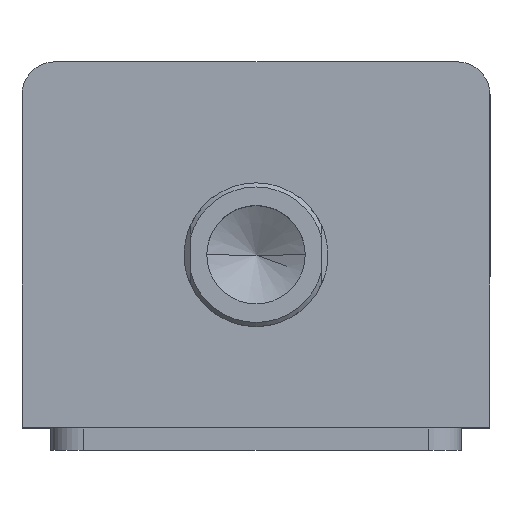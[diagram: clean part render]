
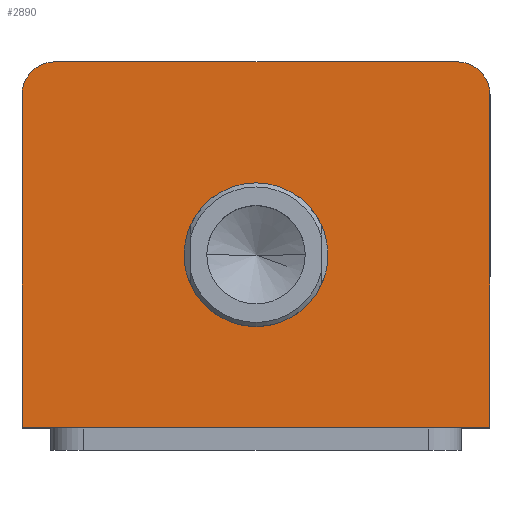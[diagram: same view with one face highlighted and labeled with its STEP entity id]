
A CAD part, top view. The second image highlights one B-rep face of the part: STEP entity #2890.
In plain terms, the highlighted planar face has unit normal (0, 0, 1).
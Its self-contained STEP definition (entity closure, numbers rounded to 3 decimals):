
#100 = CIRCLE ( 'NONE', #1891, 17.5 ) ;
#108 = VECTOR ( 'NONE', #206, 1000. ) ;
#112 = LINE ( 'NONE', #208, #108 ) ;
#132 = VECTOR ( 'NONE', #275, 1000. ) ;
#136 = LINE ( 'NONE', #273, #132 ) ;
#146 = CIRCLE ( 'NONE', #1894, 17.5 ) ;
#158 = DIRECTION ( 'NONE',  ( 1., 0., 0. ) ) ;
#159 = DIRECTION ( 'NONE',  ( 0., 0., 1. ) ) ;
#163 = CARTESIAN_POINT ( 'NONE',  ( 0., -2.5, 172. ) ) ;
#178 = DIRECTION ( 'NONE',  ( 1., 0., 0. ) ) ;
#179 = DIRECTION ( 'NONE',  ( 0., 0., 1. ) ) ;
#180 = CARTESIAN_POINT ( 'NONE',  ( 0., -2.5, 172. ) ) ;
#202 = CARTESIAN_POINT ( 'NONE',  ( -57., 36.5, 172. ) ) ;
#203 = CARTESIAN_POINT ( 'NONE',  ( -49., 44.5, 172. ) ) ;
#206 = DIRECTION ( 'NONE',  ( 1., 0., 0. ) ) ;
#207 = CARTESIAN_POINT ( 'NONE',  ( -57., -44.5, 172. ) ) ;
#208 = CARTESIAN_POINT ( 'NONE',  ( -57., -44.5, 172. ) ) ;
#210 = CARTESIAN_POINT ( 'NONE',  ( 57., -44.5, 172. ) ) ;
#219 = CARTESIAN_POINT ( 'NONE',  ( 17.5, -2.5, 172. ) ) ;
#224 = CARTESIAN_POINT ( 'NONE',  ( -17.5, -2.5, 172. ) ) ;
#273 = CARTESIAN_POINT ( 'NONE',  ( 57., 44.5, 172. ) ) ;
#275 = DIRECTION ( 'NONE',  ( 0., 1., 0. ) ) ;
#354 = DIRECTION ( 'NONE',  ( -1., 0., 0. ) ) ;
#360 = CARTESIAN_POINT ( 'NONE',  ( 49., 44.5, 172. ) ) ;
#369 = CARTESIAN_POINT ( 'NONE',  ( -57., 44.5, 172. ) ) ;
#374 = CARTESIAN_POINT ( 'NONE',  ( 57., 36.5, 172. ) ) ;
#468 = VECTOR ( 'NONE', #354, 1000. ) ;
#473 = LINE ( 'NONE', #369, #468 ) ;
#588 = DIRECTION ( 'NONE',  ( 1., 0., 0. ) ) ;
#589 = DIRECTION ( 'NONE',  ( 0., 0., 1. ) ) ;
#590 = CARTESIAN_POINT ( 'NONE',  ( -49., 36.5, 172. ) ) ;
#607 = DIRECTION ( 'NONE',  ( 0., -1., 0. ) ) ;
#608 = CARTESIAN_POINT ( 'NONE',  ( -57., 44.5, 172. ) ) ;
#782 = VERTEX_POINT ( 'NONE', #374 ) ;
#788 = VERTEX_POINT ( 'NONE', #360 ) ;
#855 = VERTEX_POINT ( 'NONE', #207 ) ;
#856 = VERTEX_POINT ( 'NONE', #224 ) ;
#857 = VERTEX_POINT ( 'NONE', #219 ) ;
#860 = VERTEX_POINT ( 'NONE', #210 ) ;
#863 = VERTEX_POINT ( 'NONE', #203 ) ;
#864 = VERTEX_POINT ( 'NONE', #202 ) ;
#920 = EDGE_LOOP ( 'NONE', ( #1074, #1073 ) ) ;
#921 = EDGE_LOOP ( 'NONE', ( #1072, #1071, #1023, #1008, #1026, #991 ) ) ;
#991 = ORIENTED_EDGE ( 'NONE', *, *, #1736, .T. ) ;
#1008 = ORIENTED_EDGE ( 'NONE', *, *, #1668, .T. ) ;
#1023 = ORIENTED_EDGE ( 'NONE', *, *, #3245, .T. ) ;
#1026 = ORIENTED_EDGE ( 'NONE', *, *, #1646, .T. ) ;
#1071 = ORIENTED_EDGE ( 'NONE', *, *, #2637, .T. ) ;
#1072 = ORIENTED_EDGE ( 'NONE', *, *, #1475, .T. ) ;
#1073 = ORIENTED_EDGE ( 'NONE', *, *, #1679, .F. ) ;
#1074 = ORIENTED_EDGE ( 'NONE', *, *, #1676, .F. ) ;
#1475 = EDGE_CURVE ( 'NONE', #788, #863, #473, .T. ) ;
#1646 = EDGE_CURVE ( 'NONE', #860, #782, #136, .T. ) ;
#1668 = EDGE_CURVE ( 'NONE', #855, #860, #112, .T. ) ;
#1676 = EDGE_CURVE ( 'NONE', #857, #856, #100, .T. ) ;
#1679 = EDGE_CURVE ( 'NONE', #856, #857, #146, .T. ) ;
#1736 = EDGE_CURVE ( 'NONE', #782, #788, #2207, .T. ) ;
#1891 = AXIS2_PLACEMENT_3D ( 'NONE', #180, #179, #178 ) ;
#1894 = AXIS2_PLACEMENT_3D ( 'NONE', #163, #159, #158 ) ;
#1921 = AXIS2_PLACEMENT_3D ( 'NONE', #3369, #3368, #3367 ) ;
#1969 = AXIS2_PLACEMENT_3D ( 'NONE', #2686, #2682, #2681 ) ;
#2047 = AXIS2_PLACEMENT_3D ( 'NONE', #590, #589, #588 ) ;
#2207 = CIRCLE ( 'NONE', #1921, 8. ) ;
#2337 = FACE_BOUND ( 'NONE', #920, .T. ) ;
#2340 = FACE_OUTER_BOUND ( 'NONE', #921, .T. ) ;
#2475 = LINE ( 'NONE', #608, #2483 ) ;
#2483 = VECTOR ( 'NONE', #607, 1000. ) ;
#2490 = CIRCLE ( 'NONE', #2047, 8. ) ;
#2637 = EDGE_CURVE ( 'NONE', #863, #864, #2490, .T. ) ;
#2681 = DIRECTION ( 'NONE',  ( 1., 0., 0. ) ) ;
#2682 = DIRECTION ( 'NONE',  ( 0., 0., 1. ) ) ;
#2686 = CARTESIAN_POINT ( 'NONE',  ( 0., 0., 172. ) ) ;
#2688 = PLANE ( 'NONE',  #1969 ) ;
#2890 = ADVANCED_FACE ( 'NONE', ( #2337, #2340 ), #2688, .T. ) ;
#3245 = EDGE_CURVE ( 'NONE', #864, #855, #2475, .T. ) ;
#3367 = DIRECTION ( 'NONE',  ( 1., 0., 0. ) ) ;
#3368 = DIRECTION ( 'NONE',  ( 0., 0., 1. ) ) ;
#3369 = CARTESIAN_POINT ( 'NONE',  ( 49., 36.5, 172. ) ) ;
